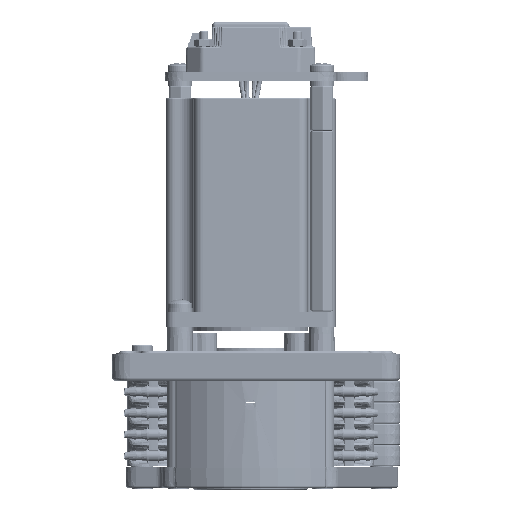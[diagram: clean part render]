
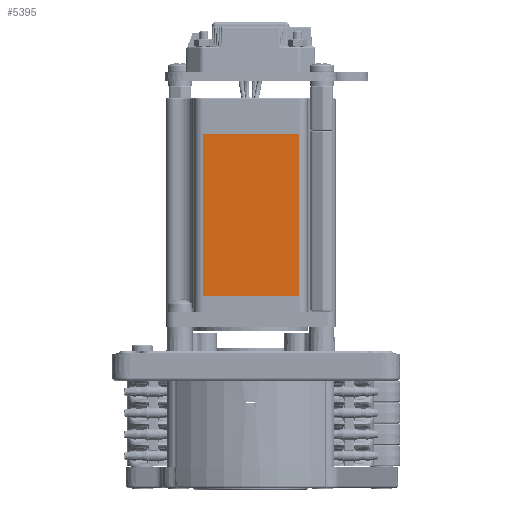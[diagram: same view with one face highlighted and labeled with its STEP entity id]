
A CAD part, front view. The second image highlights one B-rep face of the part: STEP entity #5395.
In plain terms, the highlighted planar face has unit normal (0, -1, 0).
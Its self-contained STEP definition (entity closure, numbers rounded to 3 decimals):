
#5395 = ADVANCED_FACE ( 'NONE', ( #84415 ), #72535, .F. ) ;
#7305 = VERTEX_POINT ( 'NONE', #99868 ) ;
#10263 = DIRECTION ( 'NONE',  ( 0., 1., 0. ) ) ;
#16452 = DIRECTION ( 'NONE',  ( 0., 0., 1. ) ) ;
#20383 = VERTEX_POINT ( 'NONE', #99962 ) ;
#21748 = CARTESIAN_POINT ( 'NONE',  ( 14.158, -29.2, 28. ) ) ;
#23134 = CARTESIAN_POINT ( 'NONE',  ( 14.15, -29.2, 28. ) ) ;
#25383 = ORIENTED_EDGE ( 'NONE', *, *, #116276, .F. ) ;
#29257 = DIRECTION ( 'NONE',  ( 0., 0., -1. ) ) ;
#29600 = CARTESIAN_POINT ( 'NONE',  ( 14.15, -29.2, 82. ) ) ;
#34291 = EDGE_CURVE ( 'NONE', #20383, #34422, #110902, .T. ) ;
#34303 = CARTESIAN_POINT ( 'NONE',  ( -17.658, -29.2, 82. ) ) ;
#34422 = VERTEX_POINT ( 'NONE', #115431 ) ;
#41044 = CARTESIAN_POINT ( 'NONE',  ( -21.45, -29.2, 82. ) ) ;
#41459 = CARTESIAN_POINT ( 'NONE',  ( 14.166, -29.2, 82. ) ) ;
#46782 = CARTESIAN_POINT ( 'NONE',  ( -7.05, -29.2, 28. ) ) ;
#48263 = EDGE_CURVE ( 'NONE', #88479, #108858, #87205, .T. ) ;
#48430 = CARTESIAN_POINT ( 'NONE',  ( -7.05, -29.2, 82. ) ) ;
#49286 = CARTESIAN_POINT ( 'NONE',  ( 14.174, -29.2, 5.605 ) ) ;
#49379 = EDGE_CURVE ( 'NONE', #34422, #130853, #101809, .T. ) ;
#52222 = DIRECTION ( 'NONE',  ( 1., 0., 0. ) ) ;
#55990 = CARTESIAN_POINT ( 'NONE',  ( 14.166, -29.2, 28. ) ) ;
#57275 = CARTESIAN_POINT ( 'NONE',  ( 14.174, -29.2, 82. ) ) ;
#58222 = VERTEX_POINT ( 'NONE', #112964 ) ;
#60376 = CARTESIAN_POINT ( 'NONE',  ( -17.65, -29.2, 28. ) ) ;
#61634 = CARTESIAN_POINT ( 'NONE',  ( -17.65, -29.2, 82. ) ) ;
#62443 = CARTESIAN_POINT ( 'NONE',  ( 14.174, -29.2, 82. ) ) ;
#62759 = CARTESIAN_POINT ( 'NONE',  ( -17.65, -29.2, 28. ) ) ;
#66396 = CARTESIAN_POINT ( 'NONE',  ( -17.65, -29.2, 28. ) ) ;
#69167 = CARTESIAN_POINT ( 'NONE',  ( 3.55, -29.2, 28. ) ) ;
#72535 = PLANE ( 'NONE',  #123622 ) ;
#73497 = CARTESIAN_POINT ( 'NONE',  ( -17.674, -29.2, 82. ) ) ;
#74413 = VECTOR ( 'NONE', #16452, 1000. ) ;
#78338 = CARTESIAN_POINT ( 'NONE',  ( -17.65, -29.2, 82. ) ) ;
#83758 = ORIENTED_EDGE ( 'NONE', *, *, #97914, .T. ) ;
#84120 = CARTESIAN_POINT ( 'NONE',  ( -17.666, -29.2, 28. ) ) ;
#84415 = FACE_OUTER_BOUND ( 'NONE', #87514, .T. ) ;
#84612 = EDGE_CURVE ( 'NONE', #58222, #7305, #104756, .T. ) ;
#84696 = CARTESIAN_POINT ( 'NONE',  ( -17.666, -29.2, 82. ) ) ;
#87205 = B_SPLINE_CURVE_WITH_KNOTS ( 'NONE', 3,
 ( #66396, #46782, #69167, #109037 ),
 .UNSPECIFIED., .F., .F.,
 ( 4, 4 ),
 ( 0., 1. ),
 .UNSPECIFIED. ) ;
#87514 = EDGE_LOOP ( 'NONE', ( #25383, #127207, #134493, #129141, #83758, #119155, #111069, #91479 ) ) ;
#88479 = VERTEX_POINT ( 'NONE', #62759 ) ;
#90410 = CARTESIAN_POINT ( 'NONE',  ( 3.55, -29.2, 82. ) ) ;
#91479 = ORIENTED_EDGE ( 'NONE', *, *, #34291, .F. ) ;
#91864 = CARTESIAN_POINT ( 'NONE',  ( -17.674, -29.2, 28. ) ) ;
#94284 = CARTESIAN_POINT ( 'NONE',  ( -17.674, -29.2, 5.605 ) ) ;
#97701 = EDGE_CURVE ( 'NONE', #98145, #130853, #124081, .T. ) ;
#97914 = EDGE_CURVE ( 'NONE', #108858, #98145, #107240, .T. ) ;
#98145 = VERTEX_POINT ( 'NONE', #125045 ) ;
#99868 = CARTESIAN_POINT ( 'NONE',  ( -17.674, -29.2, 28. ) ) ;
#99962 = CARTESIAN_POINT ( 'NONE',  ( -17.65, -29.2, 82. ) ) ;
#101809 = B_SPLINE_CURVE_WITH_KNOTS ( 'NONE', 3,
 ( #29600, #103759, #41459, #62443 ),
 .UNSPECIFIED., .F., .F.,
 ( 4, 4 ),
 ( 0., 1. ),
 .UNSPECIFIED. ) ;
#102281 = CARTESIAN_POINT ( 'NONE',  ( 14.15, -29.2, 82. ) ) ;
#103759 = CARTESIAN_POINT ( 'NONE',  ( 14.158, -29.2, 82. ) ) ;
#104756 = LINE ( 'NONE', #94284, #128503 ) ;
#107240 = B_SPLINE_CURVE_WITH_KNOTS ( 'NONE', 3,
 ( #23134, #21748, #55990, #108436 ),
 .UNSPECIFIED., .F., .F.,
 ( 4, 4 ),
 ( 0., 1. ),
 .UNSPECIFIED. ) ;
#107338 = CARTESIAN_POINT ( 'NONE',  ( 14.15, -29.2, 28. ) ) ;
#108436 = CARTESIAN_POINT ( 'NONE',  ( 14.174, -29.2, 28. ) ) ;
#108858 = VERTEX_POINT ( 'NONE', #107338 ) ;
#109037 = CARTESIAN_POINT ( 'NONE',  ( 14.15, -29.2, 28. ) ) ;
#109276 = B_SPLINE_CURVE_WITH_KNOTS ( 'NONE', 3,
 ( #91864, #84120, #123988, #60376 ),
 .UNSPECIFIED., .F., .F.,
 ( 4, 4 ),
 ( 0., 1. ),
 .UNSPECIFIED. ) ;
#110902 = B_SPLINE_CURVE_WITH_KNOTS ( 'NONE', 3,
 ( #61634, #48430, #90410, #102281 ),
 .UNSPECIFIED., .F., .F.,
 ( 4, 4 ),
 ( 0., 1. ),
 .UNSPECIFIED. ) ;
#111069 = ORIENTED_EDGE ( 'NONE', *, *, #49379, .F. ) ;
#112964 = CARTESIAN_POINT ( 'NONE',  ( -17.674, -29.2, 82. ) ) ;
#115431 = CARTESIAN_POINT ( 'NONE',  ( 14.15, -29.2, 82. ) ) ;
#116276 = EDGE_CURVE ( 'NONE', #58222, #20383, #122898, .T. ) ;
#119155 = ORIENTED_EDGE ( 'NONE', *, *, #97701, .T. ) ;
#122898 = B_SPLINE_CURVE_WITH_KNOTS ( 'NONE', 3,
 ( #73497, #84696, #34303, #78338 ),
 .UNSPECIFIED., .F., .F.,
 ( 4, 4 ),
 ( 0., 1. ),
 .UNSPECIFIED. ) ;
#123622 = AXIS2_PLACEMENT_3D ( 'NONE', #41044, #10263, #52222 ) ;
#123988 = CARTESIAN_POINT ( 'NONE',  ( -17.658, -29.2, 28. ) ) ;
#124081 = LINE ( 'NONE', #49286, #74413 ) ;
#125045 = CARTESIAN_POINT ( 'NONE',  ( 14.174, -29.2, 28. ) ) ;
#127207 = ORIENTED_EDGE ( 'NONE', *, *, #84612, .T. ) ;
#128503 = VECTOR ( 'NONE', #29257, 1000. ) ;
#129141 = ORIENTED_EDGE ( 'NONE', *, *, #48263, .T. ) ;
#130853 = VERTEX_POINT ( 'NONE', #57275 ) ;
#134493 = ORIENTED_EDGE ( 'NONE', *, *, #138057, .T. ) ;
#138057 = EDGE_CURVE ( 'NONE', #7305, #88479, #109276, .T. ) ;
